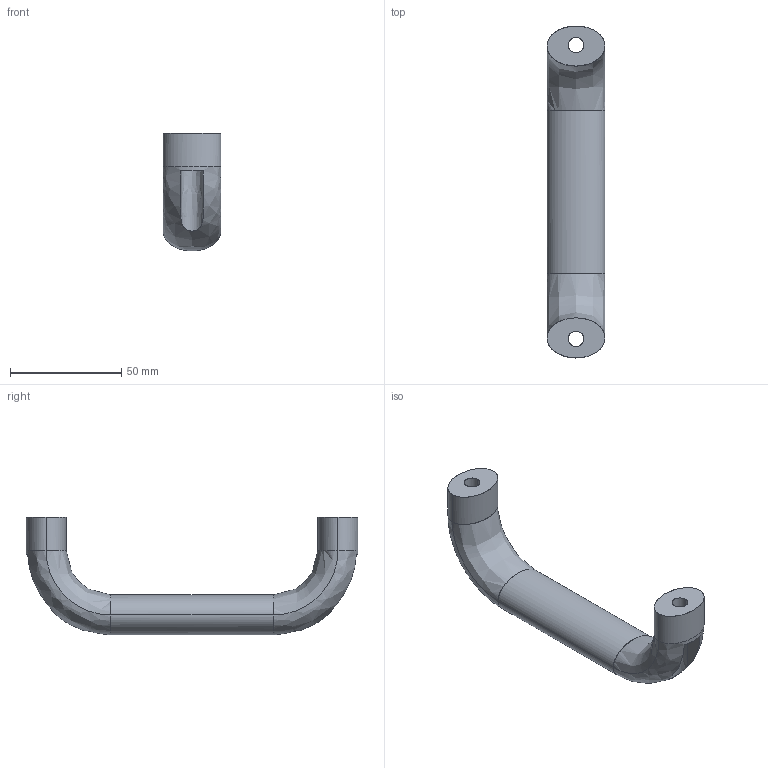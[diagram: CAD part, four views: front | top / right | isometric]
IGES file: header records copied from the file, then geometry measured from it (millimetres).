
Start section: SolidWorks IGES file using analytic representation for surfaces
Global section: file name: C:\Documents and Settings\Deathkiller\桌面\3D IGES\U型把手\MS-746\p=132.IGS; native system: SolidWorks 2006 by SolidWorks Corporation; preprocessor: SolidWorks 2006 by SolidWorks Corporation; author: Deathkiller; date: 080624.173114; units: millimetre
Bounding box: 26 x 149.13 x 53 mm (x, y, z)
Surface area: 15764.4 mm2 (no closed solid volume)
Topology: 0 solids, 0 shells, 28 faces, 478 edges, 478 vertices
Faces by surface type: bspline 20, revolution 8
